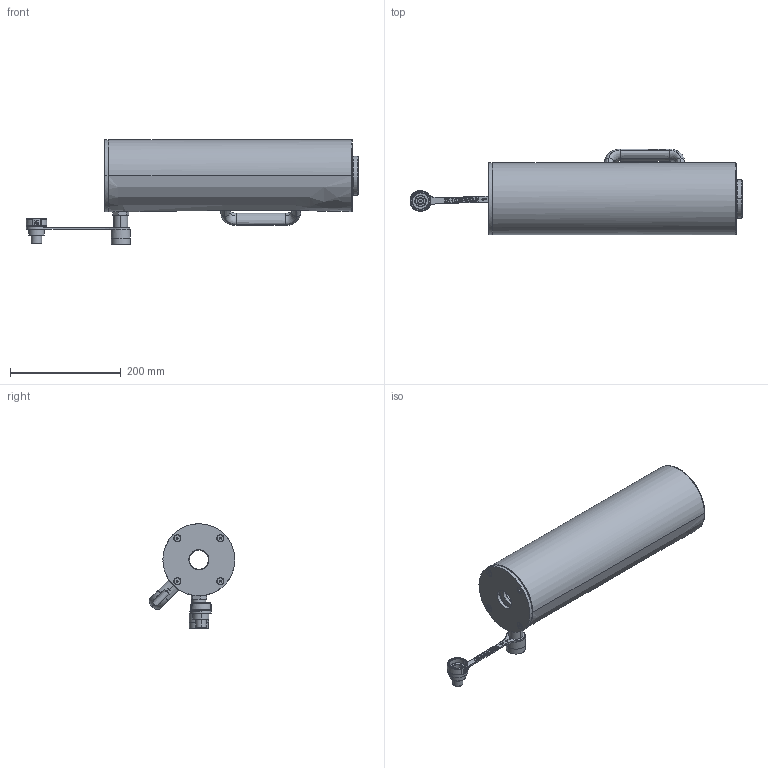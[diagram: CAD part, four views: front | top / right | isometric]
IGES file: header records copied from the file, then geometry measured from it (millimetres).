
Start section:  PTC IGES file: RACH-304.igs
Global section: file name: RACH-304.igs; native system: Creo Parametric by PTC Inc.; preprocessor: 2018400; author: mike.ward; organization: Unknown; date: 20200130.140226; units: millimetre
Bounding box: 600.33 x 154.81 x 188.59 mm (x, y, z)
Surface area: 647295.2 mm2 (no closed solid volume)
Topology: 0 solids, 0 shells, 1097 faces, 5294 edges, 5272 vertices
Faces by surface type: bspline 538, revolution 450, extrusion 109
